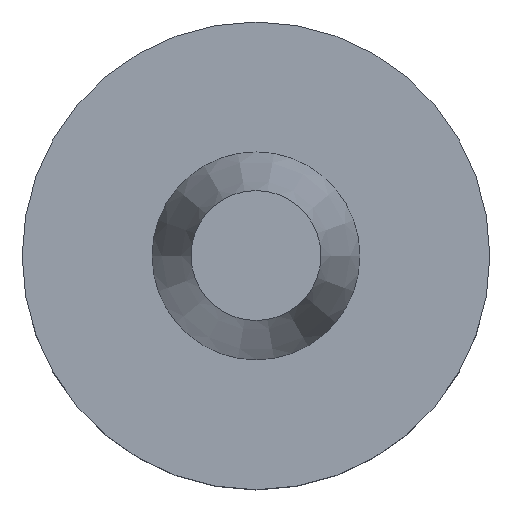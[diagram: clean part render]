
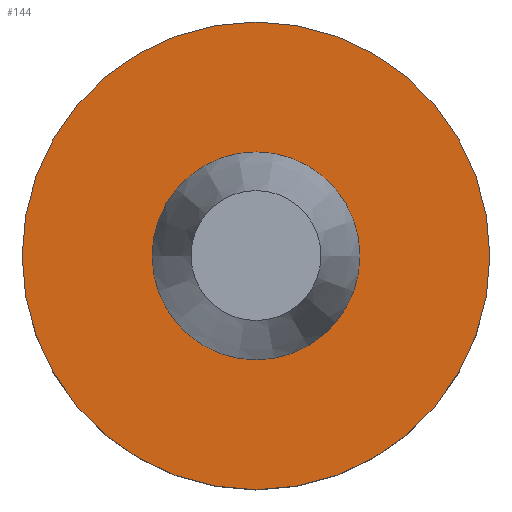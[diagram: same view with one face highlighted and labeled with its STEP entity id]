
A CAD part, top view. The second image highlights one B-rep face of the part: STEP entity #144.
In plain terms, the highlighted planar face has unit normal (0, 0, 1).
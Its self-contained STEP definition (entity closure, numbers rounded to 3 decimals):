
#24 = VERTEX_POINT('',#25);
#25 = CARTESIAN_POINT('',(9.,0.,6.));
#32 = CYLINDRICAL_SURFACE('',#33,9.);
#33 = AXIS2_PLACEMENT_3D('',#34,#35,#36);
#34 = CARTESIAN_POINT('',(0.,0.,0.));
#35 = DIRECTION('',(-0.,-0.,-1.));
#36 = DIRECTION('',(1.,0.,0.));
#51 = EDGE_CURVE('',#24,#24,#52,.T.);
#52 = SURFACE_CURVE('',#53,(#58,#65),.PCURVE_S1.);
#53 = CIRCLE('',#54,9.);
#54 = AXIS2_PLACEMENT_3D('',#55,#56,#57);
#55 = CARTESIAN_POINT('',(0.,0.,6.));
#56 = DIRECTION('',(0.,0.,1.));
#57 = DIRECTION('',(1.,0.,0.));
#58 = PCURVE('',#32,#59);
#59 = DEFINITIONAL_REPRESENTATION('',(#60),#64);
#60 = LINE('',#61,#62);
#61 = CARTESIAN_POINT('',(-0.,-6.));
#62 = VECTOR('',#63,1.);
#63 = DIRECTION('',(-1.,0.));
#64 = ( GEOMETRIC_REPRESENTATION_CONTEXT(2) 
PARAMETRIC_REPRESENTATION_CONTEXT() REPRESENTATION_CONTEXT('2D SPACE',''
  ) );
#65 = PCURVE('',#66,#71);
#66 = PLANE('',#67);
#67 = AXIS2_PLACEMENT_3D('',#68,#69,#70);
#68 = CARTESIAN_POINT('',(0.,0.,6.));
#69 = DIRECTION('',(0.,0.,1.));
#70 = DIRECTION('',(1.,0.,-0.));
#71 = DEFINITIONAL_REPRESENTATION('',(#72),#76);
#72 = CIRCLE('',#73,9.);
#73 = AXIS2_PLACEMENT_2D('',#74,#75);
#74 = CARTESIAN_POINT('',(0.,0.));
#75 = DIRECTION('',(1.,0.));
#76 = ( GEOMETRIC_REPRESENTATION_CONTEXT(2) 
PARAMETRIC_REPRESENTATION_CONTEXT() REPRESENTATION_CONTEXT('2D SPACE',''
  ) );
#144 = ADVANCED_FACE('',(#145,#148),#66,.T.);
#145 = FACE_BOUND('',#146,.T.);
#146 = EDGE_LOOP('',(#147));
#147 = ORIENTED_EDGE('',*,*,#51,.T.);
#148 = FACE_BOUND('',#149,.T.);
#149 = EDGE_LOOP('',(#150));
#150 = ORIENTED_EDGE('',*,*,#151,.F.);
#151 = EDGE_CURVE('',#152,#152,#154,.T.);
#152 = VERTEX_POINT('',#153);
#153 = CARTESIAN_POINT('',(4.,0.,6.));
#154 = SURFACE_CURVE('',#155,(#160,#167),.PCURVE_S1.);
#155 = CIRCLE('',#156,4.);
#156 = AXIS2_PLACEMENT_3D('',#157,#158,#159);
#157 = CARTESIAN_POINT('',(0.,0.,6.));
#158 = DIRECTION('',(0.,0.,1.));
#159 = DIRECTION('',(1.,0.,0.));
#160 = PCURVE('',#66,#161);
#161 = DEFINITIONAL_REPRESENTATION('',(#162),#166);
#162 = CIRCLE('',#163,4.);
#163 = AXIS2_PLACEMENT_2D('',#164,#165);
#164 = CARTESIAN_POINT('',(0.,0.));
#165 = DIRECTION('',(1.,0.));
#166 = ( GEOMETRIC_REPRESENTATION_CONTEXT(2) 
PARAMETRIC_REPRESENTATION_CONTEXT() REPRESENTATION_CONTEXT('2D SPACE',''
  ) );
#167 = PCURVE('',#168,#173);
#168 = CONICAL_SURFACE('',#169,4.,0.211);
#169 = AXIS2_PLACEMENT_3D('',#170,#171,#172);
#170 = CARTESIAN_POINT('',(0.,0.,6.));
#171 = DIRECTION('',(-0.,-0.,-1.));
#172 = DIRECTION('',(1.,0.,0.));
#173 = DEFINITIONAL_REPRESENTATION('',(#174),#178);
#174 = LINE('',#175,#176);
#175 = CARTESIAN_POINT('',(-0.,-0.));
#176 = VECTOR('',#177,1.);
#177 = DIRECTION('',(-1.,-0.));
#178 = ( GEOMETRIC_REPRESENTATION_CONTEXT(2) 
PARAMETRIC_REPRESENTATION_CONTEXT() REPRESENTATION_CONTEXT('2D SPACE',''
  ) );
